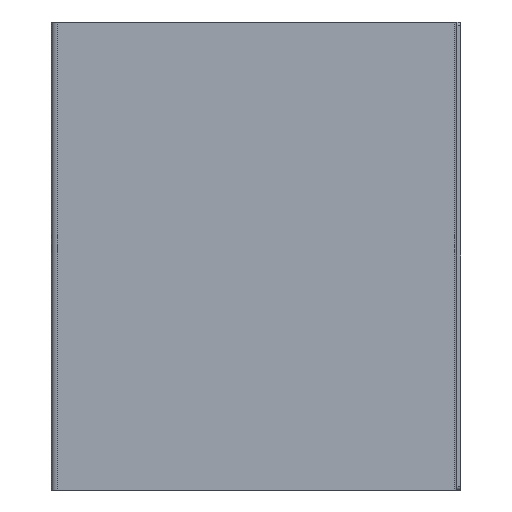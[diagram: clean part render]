
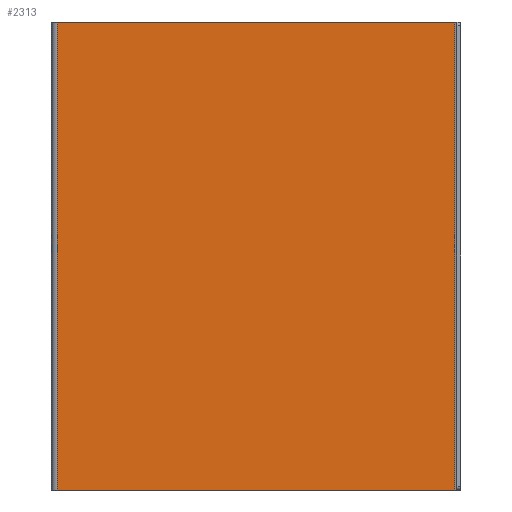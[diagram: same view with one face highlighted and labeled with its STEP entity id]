
A CAD part, left-side view. The second image highlights one B-rep face of the part: STEP entity #2313.
In plain terms, the highlighted planar face has unit normal (-1, 0, 0).
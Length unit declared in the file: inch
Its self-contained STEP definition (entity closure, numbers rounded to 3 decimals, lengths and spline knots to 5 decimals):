
#48 = EDGE_CURVE ( 'NONE', #5682, #2425, #5060, .T. ) ;
#129 = LINE ( 'NONE', #2109, #2380 ) ;
#314 = EDGE_CURVE ( 'NONE', #2433, #5682, #129, .T. ) ;
#371 = ORIENTED_EDGE ( 'NONE', *, *, #3894, .F. ) ;
#443 = ORIENTED_EDGE ( 'NONE', *, *, #314, .T. ) ;
#567 = EDGE_CURVE ( 'NONE', #2433, #1275, #5194, .T. ) ;
#1275 = VERTEX_POINT ( 'NONE', #2962 ) ;
#1389 = ORIENTED_EDGE ( 'NONE', *, *, #567, .F. ) ;
#1397 = CARTESIAN_POINT ( 'NONE',  ( -8.125, 0., 0. ) ) ;
#1462 = CARTESIAN_POINT ( 'NONE',  ( -8.125, -13.803, 16. ) ) ;
#1620 = CARTESIAN_POINT ( 'NONE',  ( -8.125, -0.197, 16. ) ) ;
#2109 = CARTESIAN_POINT ( 'NONE',  ( -8.125, 0., 16. ) ) ;
#2312 = VECTOR ( 'NONE', #5139, 39.37008 ) ;
#2313 = ADVANCED_FACE ( 'NONE', ( #3086 ), #2363, .T. ) ;
#2363 = PLANE ( 'NONE',  #5780 ) ;
#2380 = VECTOR ( 'NONE', #3531, 39.37008 ) ;
#2425 = VERTEX_POINT ( 'NONE', #4823 ) ;
#2433 = VERTEX_POINT ( 'NONE', #2830 ) ;
#2446 = DIRECTION ( 'NONE',  ( 0., 1., 0. ) ) ;
#2497 = DIRECTION ( 'NONE',  ( 0., 0., -1. ) ) ;
#2830 = CARTESIAN_POINT ( 'NONE',  ( -8.125, -13.803, 16. ) ) ;
#2962 = CARTESIAN_POINT ( 'NONE',  ( -8.125, -13.803, 0. ) ) ;
#3086 = FACE_OUTER_BOUND ( 'NONE', #5898, .T. ) ;
#3395 = CARTESIAN_POINT ( 'NONE',  ( -8.125, 0., 16. ) ) ;
#3531 = DIRECTION ( 'NONE',  ( 0., 1., 0. ) ) ;
#3894 = EDGE_CURVE ( 'NONE', #1275, #2425, #4822, .T. ) ;
#4633 = CARTESIAN_POINT ( 'NONE',  ( -8.125, -0.197, 16. ) ) ;
#4669 = VECTOR ( 'NONE', #2446, 39.37008 ) ;
#4822 = LINE ( 'NONE', #1397, #4669 ) ;
#4823 = CARTESIAN_POINT ( 'NONE',  ( -8.125, -0.197, 0. ) ) ;
#4844 = DIRECTION ( 'NONE',  ( 0., -1., 0. ) ) ;
#4865 = DIRECTION ( 'NONE',  ( -1., 0., 0. ) ) ;
#4986 = ORIENTED_EDGE ( 'NONE', *, *, #48, .T. ) ;
#5060 = LINE ( 'NONE', #4633, #2312 ) ;
#5139 = DIRECTION ( 'NONE',  ( 0., 0., -1. ) ) ;
#5194 = LINE ( 'NONE', #1462, #5650 ) ;
#5650 = VECTOR ( 'NONE', #2497, 39.37008 ) ;
#5682 = VERTEX_POINT ( 'NONE', #1620 ) ;
#5780 = AXIS2_PLACEMENT_3D ( 'NONE', #3395, #4865, #4844 ) ;
#5898 = EDGE_LOOP ( 'NONE', ( #371, #1389, #443, #4986 ) ) ;
